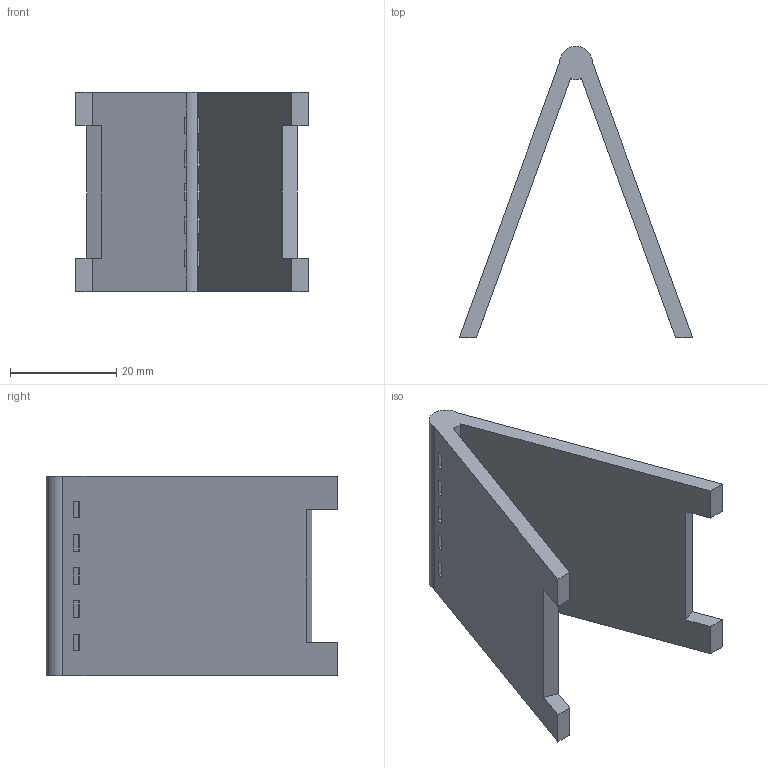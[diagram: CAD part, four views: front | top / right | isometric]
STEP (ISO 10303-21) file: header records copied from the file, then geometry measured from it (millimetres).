
FILE_DESCRIPTION(/* description */ (''),/* implementation_level */ '2;1');
FILE_NAME(/* name */ 'C:/Users/Brian/Desktop/Impressions 3D/Figurines/guitare seche/panneau affiche philV v3.step',/* time_stamp */ '2021-07-06T18:00:40+02:00',/* author */ (''),/* organization */ (''),/* preprocessor_version */ 'ST-DEVELOPER v18.1',/* originating_system */ 'Autodesk Translation Framework v10.9.0.1377',/* authorisation */ '');
FILE_SCHEMA (('AUTOMOTIVE_DESIGN { 1 0 10303 214 3 1 1 }'));
Length unit declared in the file: millimetre
Products named in the file (1): panneau affiche philV
Bounding box: 43.89 x 54.83 x 37.5 mm (x, y, z)
Volume: 12094.6 mm3; surface area: 9071.1 mm2
Topology: 1 solids, 1 shells, 58 faces, 178 edges, 112 vertices
Faces by surface type: plane 56, cylinder 2
Entity records: 1999 total; most frequent: ORIENTED_EDGE 356, CARTESIAN_POINT 349, DIRECTION 300, EDGE_CURVE 178, LINE 174, VECTOR 174, VERTEX_POINT 112, EDGE_LOOP 68
